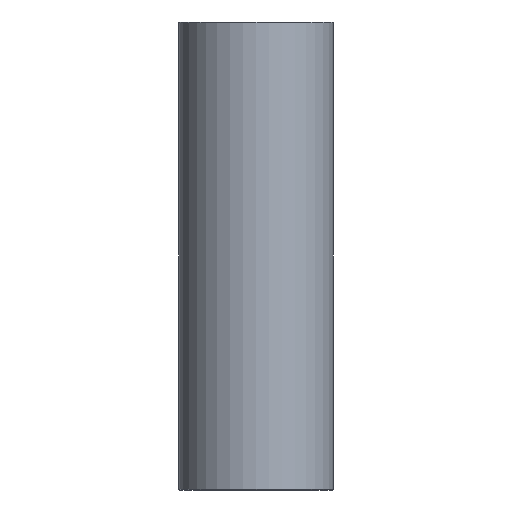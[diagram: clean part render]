
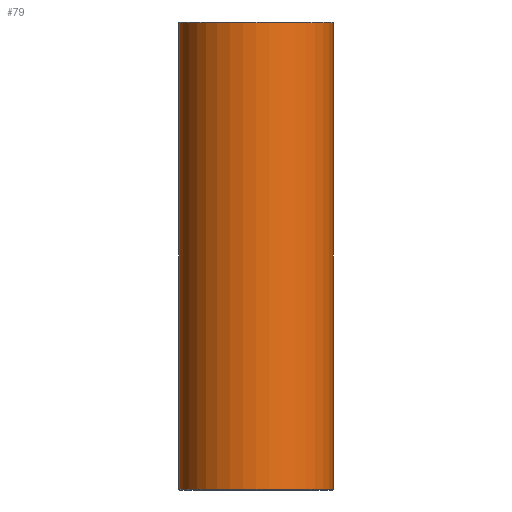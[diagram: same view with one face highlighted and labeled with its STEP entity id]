
A CAD part, front view. The second image highlights one B-rep face of the part: STEP entity #79.
In plain terms, the highlighted cylindrical face has radius 19 mm (diameter 38 mm), a full revolution.
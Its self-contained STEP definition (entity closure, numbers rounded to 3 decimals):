
#79=ADVANCED_FACE('',(#96,#97),#98,.T.);
#96=FACE_OUTER_BOUND('',#120,.T.);
#97=FACE_OUTER_BOUND('',#121,.T.);
#98=CYLINDRICAL_SURFACE('',#122,19.0);
#120=EDGE_LOOP('',(#152));
#121=EDGE_LOOP('',(#153));
#122=AXIS2_PLACEMENT_3D('',#154,#155,#156);
#152=ORIENTED_EDGE('',*,*,#178,.T.);
#153=ORIENTED_EDGE('',*,*,#177,.T.);
#154=CARTESIAN_POINT('',(0.0,0.0,115.0));
#155=DIRECTION('',(0.0,0.0,-1.0));
#156=DIRECTION('',(-1.0,0.0,0.0));
#177=EDGE_CURVE('',#190,#190,#191,.T.);
#178=EDGE_CURVE('',#192,#192,#193,.F.);
#190=VERTEX_POINT('',#206);
#191=CIRCLE('',#207,19.0);
#192=VERTEX_POINT('',#208);
#193=CIRCLE('',#209,19.0);
#206=CARTESIAN_POINT('',(19.0,0.0,0.2));
#207=AXIS2_PLACEMENT_3D('',#227,#228,#229);
#208=CARTESIAN_POINT('',(19.0,0.,114.8));
#209=AXIS2_PLACEMENT_3D('',#230,#231,#232);
#227=CARTESIAN_POINT('',(0.0,0.0,0.2));
#228=DIRECTION('',(0.0,0.0,1.0));
#229=DIRECTION('',(1.0,0.0,0.0));
#230=CARTESIAN_POINT('',(0.0,0.0,114.8));
#231=DIRECTION('',(0.0,0.0,1.0));
#232=DIRECTION('',(1.0,0.0,0.0));
